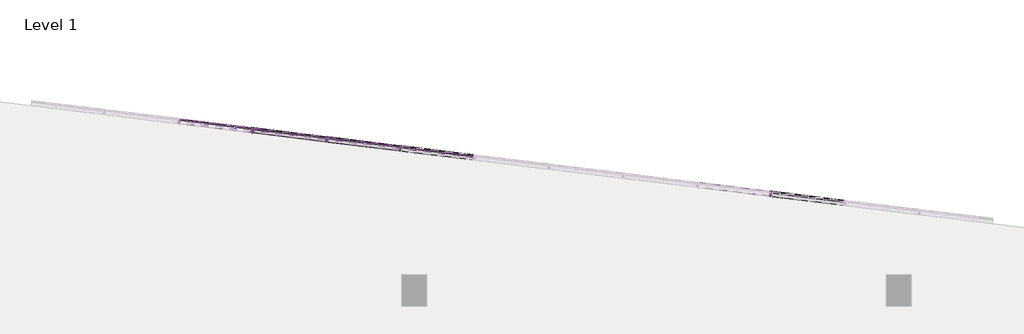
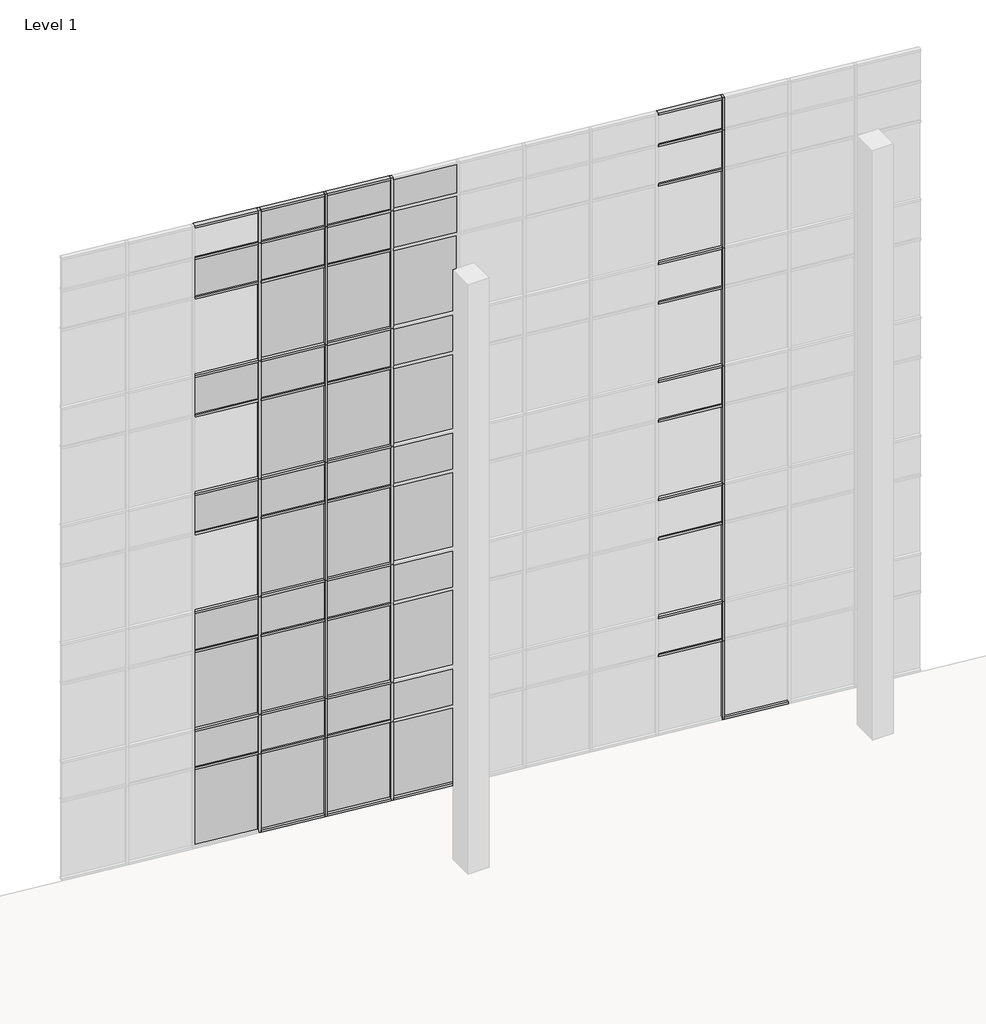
# One storey, part 18 of 23: 76 members, 40 plates.
"""IFC4 building model written with IfcOpenShell, lengths in millimetres."""

from ifc_helpers import new_model, si_unit, origin, place, context, project, spatial, transform, mapped, element, save
from components import member_2b49869a, member_f92b8aa2, member_810865a4, member_f0fea5a5, member_6d5c3e5e, member_9764dd38, system_panel_glazed_14c75400, system_panel_glazed_5b519c5a, system_panel_solid_5dfe6f83, system_panel_solid_e25e2004, system_panel_solid_b7551183

model = new_model("IFC4")

# Units and contexts
model_context = context("Model", 3, world=origin())
ifc_project = project(units=[si_unit("LENGTHUNIT", "METRE", prefix="MILLI")], contexts=[model_context])

# Site, building, storey
site = spatial("IfcSite", under=ifc_project)
building = spatial("IfcBuilding", under=site)
storey = spatial("IfcBuildingStorey", under=building, Name="Level 1", Elevation=0.0)

# Members
placement = place(None, origin())
member_shape = member_2b49869a(model_context)
element("IfcMember", 1, ObjectType="Rectangular Mullion : 2.5\" x 5\" rectangular", at=placement, inside=storey, context=model_context, shape_type="MappedRepresentation", body=[
    mapped(member_shape, transform((-12961.1731656, 13462.7931326, 2438.4), x_axis=(0.9925461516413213, -0.12186934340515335, 0.0), y_axis=(-0.12186934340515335, -0.9925461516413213, 0.0), z_axis=(0.0, 0.0, -1.0))),
])
element("IfcMember", 2, ObjectType="Rectangular Mullion : 2.5\" x 5\" rectangular", at=placement, inside=storey, context=model_context, shape_type="MappedRepresentation", body=[
    mapped(member_shape, transform((-11146.0047635, 13239.9184774, 2438.4), x_axis=(0.9925461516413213, -0.12186934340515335, 0.0), y_axis=(-0.12186934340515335, -0.9925461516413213, 0.0), z_axis=(0.0, 0.0, -1.0))),
])
element("IfcMember", 3, ObjectType="Rectangular Mullion : 2.5\" x 5\" rectangular", at=placement, inside=storey, context=model_context, shape_type="MappedRepresentation", body=[
    mapped(member_shape, transform((-254.9943507, 11902.6705461, 2438.4), x_axis=(0.9925461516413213, -0.12186934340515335, 0.0), y_axis=(-0.12186934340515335, -0.9925461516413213, 0.0), z_axis=(0.0, 0.0, -1.0))),
])
member_2_shape = member_f92b8aa2(model_context)
element("IfcMember", 4, ObjectType="Rectangular Mullion : 2.5\" x 5\" rectangular", at=placement, inside=storey, context=model_context, shape_type="MappedRepresentation", body=[
    mapped(member_2_shape, transform((-12961.1731656, 13462.7931326, 18288.0), x_axis=(0.9925461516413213, -0.12186934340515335, 0.0), y_axis=(-0.12186934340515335, -0.9925461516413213, 0.0), z_axis=(0.0, 0.0, -1.0))),
])
element("IfcMember", 5, ObjectType="Rectangular Mullion : 2.5\" x 5\" rectangular", at=placement, inside=storey, context=model_context, shape_type="MappedRepresentation", body=[
    mapped(member_2_shape, transform((-9330.8363614, 13017.0438222, 18288.0), x_axis=(0.9925461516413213, -0.12186934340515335, 0.0), y_axis=(-0.12186934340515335, -0.9925461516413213, 0.0), z_axis=(0.0, 0.0, -1.0))),
])
element("IfcMember", 6, ObjectType="Rectangular Mullion : 2.5\" x 5\" rectangular", at=placement, inside=storey, context=model_context, shape_type="MappedRepresentation", body=[
    mapped(member_2_shape, transform((-11146.0047635, 13239.9184774, 18288.0), x_axis=(0.9925461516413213, -0.12186934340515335, 0.0), y_axis=(-0.12186934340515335, -0.9925461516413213, 0.0), z_axis=(0.0, 0.0, -1.0))),
])
element("IfcMember", 7, ObjectType="Rectangular Mullion : 2.5\" x 5\" rectangular", at=placement, inside=storey, context=model_context, shape_type="MappedRepresentation", body=[
    mapped(member_2_shape, transform((-254.9943507, 11902.6705461, 18288.0), x_axis=(0.9925461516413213, -0.12186934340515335, 0.0), y_axis=(-0.12186934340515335, -0.9925461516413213, 0.0), z_axis=(0.0, 0.0, -1.0))),
])
member_3_shape = member_810865a4(model_context)
element("IfcMember", 8, ObjectType="Rectangular Mullion : 2.5\" x 5\" rectangular", at=placement, inside=storey, context=model_context, shape_type="MappedRepresentation", body=[
    mapped(member_3_shape, transform((-11146.0047635, 13239.9184774, 3657.6), x_axis=(0.9925461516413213, -0.12186934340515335, 0.0), y_axis=(-0.12186934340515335, -0.9925461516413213, 0.0), z_axis=(0.0, 0.0, -1.0))),
])
element("IfcMember", 9, ObjectType="Rectangular Mullion : 2.5\" x 5\" rectangular", at=placement, inside=storey, context=model_context, shape_type="MappedRepresentation", body=[
    mapped(member_3_shape, transform((-12961.1731656, 13462.7931326, 14630.4), x_axis=(0.9925461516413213, -0.12186934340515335, 0.0), y_axis=(-0.12186934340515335, -0.9925461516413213, 0.0), z_axis=(0.0, 0.0, -1.0))),
])
element("IfcMember", 10, ObjectType="Rectangular Mullion : 2.5\" x 5\" rectangular", at=placement, inside=storey, context=model_context, shape_type="MappedRepresentation", body=[
    mapped(member_3_shape, transform((-12961.1731656, 13462.7931326, 10972.8), x_axis=(0.9925461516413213, -0.12186934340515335, 0.0), y_axis=(-0.12186934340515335, -0.9925461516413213, 0.0), z_axis=(0.0, 0.0, -1.0))),
])
element("IfcMember", 11, ObjectType="Rectangular Mullion : 2.5\" x 5\" rectangular", at=placement, inside=storey, context=model_context, shape_type="MappedRepresentation", body=[
    mapped(member_3_shape, transform((-12961.1731656, 13462.7931326, 7315.2), x_axis=(0.9925461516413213, -0.12186934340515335, 0.0), y_axis=(-0.12186934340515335, -0.9925461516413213, 0.0), z_axis=(0.0, 0.0, -1.0))),
])
element("IfcMember", 12, ObjectType="Rectangular Mullion : 2.5\" x 5\" rectangular", at=placement, inside=storey, context=model_context, shape_type="MappedRepresentation", body=[
    mapped(member_3_shape, transform((-12961.1731656, 13462.7931326, 3657.6), x_axis=(0.9925461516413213, -0.12186934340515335, 0.0), y_axis=(-0.12186934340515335, -0.9925461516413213, 0.0), z_axis=(0.0, 0.0, -1.0))),
])
element("IfcMember", 13, ObjectType="Rectangular Mullion : 2.5\" x 5\" rectangular", at=placement, inside=storey, context=model_context, shape_type="MappedRepresentation", body=[
    mapped(member_3_shape, transform((-9330.8363614, 13017.0438222, 14630.4), x_axis=(0.9925461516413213, -0.12186934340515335, 0.0), y_axis=(-0.12186934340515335, -0.9925461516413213, 0.0), z_axis=(0.0, 0.0, -1.0))),
])
element("IfcMember", 14, ObjectType="Rectangular Mullion : 2.5\" x 5\" rectangular", at=placement, inside=storey, context=model_context, shape_type="MappedRepresentation", body=[
    mapped(member_3_shape, transform((-9330.8363614, 13017.0438222, 10972.8), x_axis=(0.9925461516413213, -0.12186934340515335, 0.0), y_axis=(-0.12186934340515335, -0.9925461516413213, 0.0), z_axis=(0.0, 0.0, -1.0))),
])
element("IfcMember", 15, ObjectType="Rectangular Mullion : 2.5\" x 5\" rectangular", at=placement, inside=storey, context=model_context, shape_type="MappedRepresentation", body=[
    mapped(member_3_shape, transform((-9330.8363614, 13017.0438222, 7315.2), x_axis=(0.9925461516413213, -0.12186934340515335, 0.0), y_axis=(-0.12186934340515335, -0.9925461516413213, 0.0), z_axis=(0.0, 0.0, -1.0))),
])
element("IfcMember", 16, ObjectType="Rectangular Mullion : 2.5\" x 5\" rectangular", at=placement, inside=storey, context=model_context, shape_type="MappedRepresentation", body=[
    mapped(member_3_shape, transform((-9330.8363614, 13017.0438222, 3657.6), x_axis=(0.9925461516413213, -0.12186934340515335, 0.0), y_axis=(-0.12186934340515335, -0.9925461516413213, 0.0), z_axis=(0.0, 0.0, -1.0))),
])
element("IfcMember", 17, ObjectType="Rectangular Mullion : 2.5\" x 5\" rectangular", at=placement, inside=storey, context=model_context, shape_type="MappedRepresentation", body=[
    mapped(member_3_shape, transform((-11146.0047635, 13239.9184774, 14630.4), x_axis=(0.9925461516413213, -0.12186934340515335, 0.0), y_axis=(-0.12186934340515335, -0.9925461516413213, 0.0), z_axis=(0.0, 0.0, -1.0))),
])
element("IfcMember", 18, ObjectType="Rectangular Mullion : 2.5\" x 5\" rectangular", at=placement, inside=storey, context=model_context, shape_type="MappedRepresentation", body=[
    mapped(member_3_shape, transform((-11146.0047635, 13239.9184774, 10972.8), x_axis=(0.9925461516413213, -0.12186934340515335, 0.0), y_axis=(-0.12186934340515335, -0.9925461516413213, 0.0), z_axis=(0.0, 0.0, -1.0))),
])
element("IfcMember", 19, ObjectType="Rectangular Mullion : 2.5\" x 5\" rectangular", at=placement, inside=storey, context=model_context, shape_type="MappedRepresentation", body=[
    mapped(member_3_shape, transform((-11146.0047635, 13239.9184774, 7315.2), x_axis=(0.9925461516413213, -0.12186934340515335, 0.0), y_axis=(-0.12186934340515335, -0.9925461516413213, 0.0), z_axis=(0.0, 0.0, -1.0))),
])
element("IfcMember", 20, ObjectType="Rectangular Mullion : 2.5\" x 5\" rectangular", at=placement, inside=storey, context=model_context, shape_type="MappedRepresentation", body=[
    mapped(member_3_shape, transform((-254.9943507, 11902.6705461, 14630.4), x_axis=(0.9925461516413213, -0.12186934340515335, 0.0), y_axis=(-0.12186934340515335, -0.9925461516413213, 0.0), z_axis=(0.0, 0.0, -1.0))),
])
element("IfcMember", 21, ObjectType="Rectangular Mullion : 2.5\" x 5\" rectangular", at=placement, inside=storey, context=model_context, shape_type="MappedRepresentation", body=[
    mapped(member_3_shape, transform((-254.9943507, 11902.6705461, 10972.8), x_axis=(0.9925461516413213, -0.12186934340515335, 0.0), y_axis=(-0.12186934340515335, -0.9925461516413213, 0.0), z_axis=(0.0, 0.0, -1.0))),
])
element("IfcMember", 22, ObjectType="Rectangular Mullion : 2.5\" x 5\" rectangular", at=placement, inside=storey, context=model_context, shape_type="MappedRepresentation", body=[
    mapped(member_3_shape, transform((-254.9943507, 11902.6705461, 7315.2), x_axis=(0.9925461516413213, -0.12186934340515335, 0.0), y_axis=(-0.12186934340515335, -0.9925461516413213, 0.0), z_axis=(0.0, 0.0, -1.0))),
])
element("IfcMember", 23, ObjectType="Rectangular Mullion : 2.5\" x 5\" rectangular", at=placement, inside=storey, context=model_context, shape_type="MappedRepresentation", body=[
    mapped(member_3_shape, transform((-254.9943507, 11902.6705461, 3657.6), x_axis=(0.9925461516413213, -0.12186934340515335, 0.0), y_axis=(-0.12186934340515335, -0.9925461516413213, 0.0), z_axis=(0.0, 0.0, -1.0))),
])
member_4_shape = member_f0fea5a5(model_context)
element("IfcMember", 24, ObjectType="Rectangular Mullion : 2.5\" x 5\" rectangular", at=placement, inside=storey, context=model_context, shape_type="MappedRepresentation", body=[
    mapped(member_4_shape, transform((-11146.0047635, 13239.9184774, 0.0), x_axis=(0.9925461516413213, -0.12186934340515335, 0.0), y_axis=(-0.12186934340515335, -0.9925461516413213, 0.0), z_axis=(0.0, 0.0, -1.0))),
])
element("IfcMember", 25, ObjectType="Rectangular Mullion : 2.5\" x 5\" rectangular", at=placement, inside=storey, context=model_context, shape_type="MappedRepresentation", body=[
    mapped(member_4_shape, transform((-12961.1731656, 13462.7931326, 0.0), x_axis=(0.9925461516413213, -0.12186934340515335, 0.0), y_axis=(-0.12186934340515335, -0.9925461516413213, 0.0), z_axis=(0.0, 0.0, -1.0))),
])
element("IfcMember", 26, ObjectType="Rectangular Mullion : 2.5\" x 5\" rectangular", at=placement, inside=storey, context=model_context, shape_type="MappedRepresentation", body=[
    mapped(member_4_shape, transform((-254.9943507, 11902.6705461, 0.0), x_axis=(0.9925461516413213, -0.12186934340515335, 0.0), y_axis=(-0.12186934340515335, -0.9925461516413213, 0.0), z_axis=(0.0, 0.0, -1.0))),
])
element("IfcMember", 27, ObjectType="Rectangular Mullion : 2.5\" x 5\" rectangular", at=placement, inside=storey, context=model_context, shape_type="MappedRepresentation", body=[
    mapped(member_4_shape, transform((-9330.8363614, 13017.0438222, 0.0), x_axis=(0.9925461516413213, -0.12186934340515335, 0.0), y_axis=(-0.12186934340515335, -0.9925461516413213, 0.0), z_axis=(0.0, 0.0, -1.0))),
])
element("IfcMember", 28, ObjectType="Rectangular Mullion : 2.5\" x 5\" rectangular", at=placement, inside=storey, context=model_context, shape_type="MappedRepresentation", body=[
    mapped(member_shape, transform((-9330.8363614, 13017.0438222, 2438.4), x_axis=(0.9925461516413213, -0.12186934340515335, 0.0), y_axis=(-0.12186934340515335, -0.9925461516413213, 0.0), z_axis=(0.0, 0.0, -1.0))),
])
member_5_shape = member_6d5c3e5e(model_context)
element("IfcMember", 29, ObjectType="Rectangular Mullion : 2.5\" x 5\" rectangular", at=placement, inside=storey, context=model_context, shape_type="MappedRepresentation", body=[
    mapped(member_5_shape, transform((-9362.3497017, 13020.9131738, 19304.0), x_axis=(0.0, 0.0, 1.0), y_axis=(-0.12186934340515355, -0.9925461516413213, 0.0), z_axis=(0.9925461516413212, -0.12186934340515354, 0.0))),
])
element("IfcMember", 30, ObjectType="Rectangular Mullion : 2.5\" x 5\" rectangular", at=placement, inside=storey, context=model_context, shape_type="MappedRepresentation", body=[
    mapped(member_5_shape, transform((-11177.5181038, 13243.7878291, 19304.0), x_axis=(0.0, 0.0, 1.0), y_axis=(-0.12186934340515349, -0.9925461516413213, 0.0), z_axis=(0.9925461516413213, -0.12186934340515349, 0.0))),
])
element("IfcMember", 31, ObjectType="Rectangular Mullion : 2.5\" x 5\" rectangular", at=placement, inside=storey, context=model_context, shape_type="MappedRepresentation", body=[
    mapped(member_5_shape, transform((-12992.6865059, 13466.6624843, 19304.0), x_axis=(0.0, 0.0, 1.0), y_axis=(-0.12186934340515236, -0.9925461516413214, 0.0), z_axis=(0.9925461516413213, -0.12186934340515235, 0.0))),
])
element("IfcMember", 32, ObjectType="Rectangular Mullion : 2.5\" x 5\" rectangular", at=placement, inside=storey, context=model_context, shape_type="MappedRepresentation", body=[
    mapped(member_5_shape, transform((-286.5076911, 11906.5398977, 19304.0), x_axis=(0.0, 0.0, 1.0), y_axis=(-0.12186934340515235, -0.9925461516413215, 0.0), z_axis=(0.9925461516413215, -0.12186934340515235, 0.0))),
])
member_6_shape = member_9764dd38(model_context)
element("IfcMember", 33, ObjectType="Rectangular Mullion : 2.5\" x 5\" rectangular", at=placement, inside=storey, context=model_context, shape_type="MappedRepresentation", body=[
    mapped(member_6_shape, transform((-286.5076911, 11906.5398977, 17068.8), x_axis=(0.0, 0.0, 1.0), y_axis=(-0.12186934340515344, -0.9925461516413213, 0.0), z_axis=(0.9925461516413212, -0.12186934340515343, 0.0))),
])
element("IfcMember", 34, ObjectType="Rectangular Mullion : 2.5\" x 5\" rectangular", at=placement, inside=storey, context=model_context, shape_type="MappedRepresentation", body=[
    mapped(member_6_shape, transform((-9362.3497017, 13020.9131738, 17068.8), x_axis=(0.0, 0.0, 1.0), y_axis=(-0.12186934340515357, -0.9925461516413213, 0.0), z_axis=(0.9925461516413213, -0.12186934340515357, 0.0))),
])
element("IfcMember", 35, ObjectType="Rectangular Mullion : 2.5\" x 5\" rectangular", at=placement, inside=storey, context=model_context, shape_type="MappedRepresentation", body=[
    mapped(member_6_shape, transform((-11177.5181038, 13243.7878291, 17068.8), x_axis=(0.0, 0.0, 1.0), y_axis=(-0.12186934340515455, -0.9925461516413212, 0.0), z_axis=(0.9925461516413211, -0.12186934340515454, 0.0))),
])
element("IfcMember", 36, ObjectType="Rectangular Mullion : 2.5\" x 5\" rectangular", at=placement, inside=storey, context=model_context, shape_type="MappedRepresentation", body=[
    mapped(member_6_shape, transform((-12992.6865059, 13466.6624843, 17068.8), x_axis=(0.0, 0.0, 1.0), y_axis=(-0.12186934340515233, -0.9925461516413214, 0.0), z_axis=(0.9925461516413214, -0.12186934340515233, 0.0))),
])
element("IfcMember", 37, ObjectType="Rectangular Mullion : 2.5\" x 5\" rectangular", at=placement, inside=storey, context=model_context, shape_type="MappedRepresentation", body=[
    mapped(member_6_shape, transform((-286.5076911, 11906.5398977, 13411.2), x_axis=(0.0, 0.0, 1.0), y_axis=(-0.12186934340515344, -0.9925461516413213, 0.0), z_axis=(0.9925461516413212, -0.12186934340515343, 0.0))),
])
element("IfcMember", 38, ObjectType="Rectangular Mullion : 2.5\" x 5\" rectangular", at=placement, inside=storey, context=model_context, shape_type="MappedRepresentation", body=[
    mapped(member_6_shape, transform((-9362.3497017, 13020.9131738, 13411.2), x_axis=(0.0, 0.0, 1.0), y_axis=(-0.12186934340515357, -0.9925461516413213, 0.0), z_axis=(0.9925461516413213, -0.12186934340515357, 0.0))),
])
element("IfcMember", 39, ObjectType="Rectangular Mullion : 2.5\" x 5\" rectangular", at=placement, inside=storey, context=model_context, shape_type="MappedRepresentation", body=[
    mapped(member_6_shape, transform((-11177.5181038, 13243.7878291, 13411.2), x_axis=(0.0, 0.0, 1.0), y_axis=(-0.12186934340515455, -0.9925461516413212, 0.0), z_axis=(0.9925461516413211, -0.12186934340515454, 0.0))),
])
element("IfcMember", 40, ObjectType="Rectangular Mullion : 2.5\" x 5\" rectangular", at=placement, inside=storey, context=model_context, shape_type="MappedRepresentation", body=[
    mapped(member_6_shape, transform((-12992.6865059, 13466.6624843, 13411.2), x_axis=(0.0, 0.0, 1.0), y_axis=(-0.12186934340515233, -0.9925461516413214, 0.0), z_axis=(0.9925461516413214, -0.12186934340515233, 0.0))),
])
element("IfcMember", 41, ObjectType="Rectangular Mullion : 2.5\" x 5\" rectangular", at=placement, inside=storey, context=model_context, shape_type="MappedRepresentation", body=[
    mapped(member_6_shape, transform((-286.5076911, 11906.5398977, 9753.6), x_axis=(0.0, 0.0, 1.0), y_axis=(-0.12186934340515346, -0.9925461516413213, 0.0), z_axis=(0.9925461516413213, -0.12186934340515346, 0.0))),
])
element("IfcMember", 42, ObjectType="Rectangular Mullion : 2.5\" x 5\" rectangular", at=placement, inside=storey, context=model_context, shape_type="MappedRepresentation", body=[
    mapped(member_6_shape, transform((-9362.3497017, 13020.9131738, 9753.6), x_axis=(0.0, 0.0, 1.0), y_axis=(-0.12186934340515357, -0.9925461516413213, 0.0), z_axis=(0.9925461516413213, -0.12186934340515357, 0.0))),
])
element("IfcMember", 43, ObjectType="Rectangular Mullion : 2.5\" x 5\" rectangular", at=placement, inside=storey, context=model_context, shape_type="MappedRepresentation", body=[
    mapped(member_6_shape, transform((-11177.5181038, 13243.7878291, 9753.6), x_axis=(0.0, 0.0, 1.0), y_axis=(-0.12186934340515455, -0.9925461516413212, 0.0), z_axis=(0.9925461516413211, -0.12186934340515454, 0.0))),
])
element("IfcMember", 44, ObjectType="Rectangular Mullion : 2.5\" x 5\" rectangular", at=placement, inside=storey, context=model_context, shape_type="MappedRepresentation", body=[
    mapped(member_6_shape, transform((-12992.6865059, 13466.6624843, 9753.6), x_axis=(0.0, 0.0, 1.0), y_axis=(-0.12186934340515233, -0.9925461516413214, 0.0), z_axis=(0.9925461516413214, -0.12186934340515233, 0.0))),
])
element("IfcMember", 45, ObjectType="Rectangular Mullion : 2.5\" x 5\" rectangular", at=placement, inside=storey, context=model_context, shape_type="MappedRepresentation", body=[
    mapped(member_6_shape, transform((-286.5076911, 11906.5398977, 6096.0), x_axis=(0.0, 0.0, 1.0), y_axis=(-0.12186934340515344, -0.9925461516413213, 0.0), z_axis=(0.9925461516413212, -0.12186934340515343, 0.0))),
])
element("IfcMember", 46, ObjectType="Rectangular Mullion : 2.5\" x 5\" rectangular", at=placement, inside=storey, context=model_context, shape_type="MappedRepresentation", body=[
    mapped(member_6_shape, transform((-9362.3497017, 13020.9131738, 6096.0), x_axis=(0.0, 0.0, 1.0), y_axis=(-0.12186934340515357, -0.9925461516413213, 0.0), z_axis=(0.9925461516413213, -0.12186934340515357, 0.0))),
])
element("IfcMember", 47, ObjectType="Rectangular Mullion : 2.5\" x 5\" rectangular", at=placement, inside=storey, context=model_context, shape_type="MappedRepresentation", body=[
    mapped(member_6_shape, transform((-11177.5181038, 13243.7878291, 6096.0), x_axis=(0.0, 0.0, 1.0), y_axis=(-0.12186934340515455, -0.9925461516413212, 0.0), z_axis=(0.9925461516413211, -0.12186934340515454, 0.0))),
])
element("IfcMember", 48, ObjectType="Rectangular Mullion : 2.5\" x 5\" rectangular", at=placement, inside=storey, context=model_context, shape_type="MappedRepresentation", body=[
    mapped(member_6_shape, transform((-12992.6865059, 13466.6624843, 6096.0), x_axis=(0.0, 0.0, 1.0), y_axis=(-0.12186934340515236, -0.9925461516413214, 0.0), z_axis=(0.9925461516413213, -0.12186934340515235, 0.0))),
])
element("IfcMember", 49, ObjectType="Rectangular Mullion : 2.5\" x 5\" rectangular", at=placement, inside=storey, context=model_context, shape_type="MappedRepresentation", body=[
    mapped(member_6_shape, transform((-286.5076911, 11906.5398977, 2470.15), x_axis=(0.0, 0.0, 1.0), y_axis=(-0.12186934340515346, -0.9925461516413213, 0.0), z_axis=(0.9925461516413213, -0.12186934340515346, 0.0))),
])
element("IfcMember", 50, ObjectType="Rectangular Mullion : 2.5\" x 5\" rectangular", at=placement, inside=storey, context=model_context, shape_type="MappedRepresentation", body=[
    mapped(member_6_shape, transform((-9362.3497017, 13020.9131738, 2470.15), x_axis=(0.0, 0.0, 1.0), y_axis=(-0.12186934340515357, -0.9925461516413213, 0.0), z_axis=(0.9925461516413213, -0.12186934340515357, 0.0))),
])
element("IfcMember", 51, ObjectType="Rectangular Mullion : 2.5\" x 5\" rectangular", at=placement, inside=storey, context=model_context, shape_type="MappedRepresentation", body=[
    mapped(member_6_shape, transform((-11177.5181038, 13243.7878291, 2470.15), x_axis=(0.0, 0.0, 1.0), y_axis=(-0.12186934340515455, -0.9925461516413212, 0.0), z_axis=(0.9925461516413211, -0.12186934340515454, 0.0))),
])
element("IfcMember", 52, ObjectType="Rectangular Mullion : 2.5\" x 5\" rectangular", at=placement, inside=storey, context=model_context, shape_type="MappedRepresentation", body=[
    mapped(member_6_shape, transform((-12992.6865059, 13466.6624843, 2470.15), x_axis=(0.0, 0.0, 1.0), y_axis=(-0.12186934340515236, -0.9925461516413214, 0.0), z_axis=(0.9925461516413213, -0.12186934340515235, 0.0))),
])
element("IfcMember", 53, ObjectType="Rectangular Mullion : 2.5\" x 5\" rectangular", at=placement, inside=storey, context=model_context, shape_type="MappedRepresentation", body=[
    mapped(member_5_shape, transform((-223.4810104, 11898.8011944, 0.0), x_axis=(0.0, 0.0, -1.0), y_axis=(-0.12186934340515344, -0.9925461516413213, 0.0), z_axis=(-0.9925461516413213, 0.12186934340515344, 0.0))),
])
element("IfcMember", 54, ObjectType="Rectangular Mullion : 2.5\" x 5\" rectangular", at=placement, inside=storey, context=model_context, shape_type="MappedRepresentation", body=[
    mapped(member_5_shape, transform((-11114.4914232, 13236.0491257, 0.0), x_axis=(0.0, 0.0, -1.0), y_axis=(-0.12186934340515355, -0.9925461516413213, 0.0), z_axis=(-0.9925461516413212, 0.12186934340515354, 0.0))),
])
element("IfcMember", 55, ObjectType="Rectangular Mullion : 2.5\" x 5\" rectangular", at=placement, inside=storey, context=model_context, shape_type="MappedRepresentation", body=[
    mapped(member_5_shape, transform((-12929.6598253, 13458.923781, 0.0), x_axis=(0.0, 0.0, -1.0), y_axis=(-0.12186934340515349, -0.9925461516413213, 0.0), z_axis=(-0.9925461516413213, 0.12186934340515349, 0.0))),
])
element("IfcMember", 56, ObjectType="Rectangular Mullion : 2.5\" x 5\" rectangular", at=placement, inside=storey, context=model_context, shape_type="MappedRepresentation", body=[
    mapped(member_5_shape, transform((-9299.323021, 13013.1744705, 0.0), x_axis=(0.0, 0.0, -1.0), y_axis=(-0.12186934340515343, -0.9925461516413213, 0.0), z_axis=(-0.9925461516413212, 0.12186934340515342, 0.0))),
])
element("IfcMember", 57, ObjectType="Rectangular Mullion : 2.5\" x 5\" rectangular", at=placement, inside=storey, context=model_context, shape_type="MappedRepresentation", body=[
    mapped(member_6_shape, transform((-286.5076911, 11906.5398977, 3657.6), x_axis=(0.0, 0.0, 1.0), y_axis=(-0.12186934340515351, -0.9925461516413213, 0.0), z_axis=(0.9925461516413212, -0.1218693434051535, 0.0))),
])
element("IfcMember", 58, ObjectType="Rectangular Mullion : 2.5\" x 5\" rectangular", at=placement, inside=storey, context=model_context, shape_type="MappedRepresentation", body=[
    mapped(member_6_shape, transform((-9362.3497017, 13020.9131738, 3657.6), x_axis=(0.0, 0.0, 1.0), y_axis=(-0.12186934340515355, -0.9925461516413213, 0.0), z_axis=(0.9925461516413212, -0.12186934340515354, 0.0))),
])
element("IfcMember", 59, ObjectType="Rectangular Mullion : 2.5\" x 5\" rectangular", at=placement, inside=storey, context=model_context, shape_type="MappedRepresentation", body=[
    mapped(member_6_shape, transform((-11177.5181038, 13243.7878291, 3657.6), x_axis=(0.0, 0.0, 1.0), y_axis=(-0.12186934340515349, -0.9925461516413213, 0.0), z_axis=(0.9925461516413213, -0.12186934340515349, 0.0))),
])
element("IfcMember", 60, ObjectType="Rectangular Mullion : 2.5\" x 5\" rectangular", at=placement, inside=storey, context=model_context, shape_type="MappedRepresentation", body=[
    mapped(member_6_shape, transform((-12992.6865059, 13466.6624843, 3657.6), x_axis=(0.0, 0.0, 1.0), y_axis=(-0.12186934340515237, -0.9925461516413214, 0.0), z_axis=(0.9925461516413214, -0.12186934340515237, 0.0))),
])
element("IfcMember", 61, ObjectType="Rectangular Mullion : 2.5\" x 5\" rectangular", at=placement, inside=storey, context=model_context, shape_type="MappedRepresentation", body=[
    mapped(member_6_shape, transform((-286.5076911, 11906.5398977, 10972.8), x_axis=(0.0, 0.0, 1.0), y_axis=(-0.12186934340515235, -0.9925461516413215, 0.0), z_axis=(0.9925461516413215, -0.12186934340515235, 0.0))),
])
element("IfcMember", 62, ObjectType="Rectangular Mullion : 2.5\" x 5\" rectangular", at=placement, inside=storey, context=model_context, shape_type="MappedRepresentation", body=[
    mapped(member_6_shape, transform((-9362.3497017, 13020.9131738, 10972.8), x_axis=(0.0, 0.0, 1.0), y_axis=(-0.12186934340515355, -0.9925461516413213, 0.0), z_axis=(0.9925461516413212, -0.12186934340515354, 0.0))),
])
element("IfcMember", 63, ObjectType="Rectangular Mullion : 2.5\" x 5\" rectangular", at=placement, inside=storey, context=model_context, shape_type="MappedRepresentation", body=[
    mapped(member_6_shape, transform((-11177.5181038, 13243.7878291, 10972.8), x_axis=(0.0, 0.0, 1.0), y_axis=(-0.12186934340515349, -0.9925461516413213, 0.0), z_axis=(0.9925461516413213, -0.12186934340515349, 0.0))),
])
element("IfcMember", 64, ObjectType="Rectangular Mullion : 2.5\" x 5\" rectangular", at=placement, inside=storey, context=model_context, shape_type="MappedRepresentation", body=[
    mapped(member_6_shape, transform((-12992.6865059, 13466.6624843, 10972.8), x_axis=(0.0, 0.0, 1.0), y_axis=(-0.12186934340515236, -0.9925461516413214, 0.0), z_axis=(0.9925461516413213, -0.12186934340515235, 0.0))),
])
element("IfcMember", 65, ObjectType="Rectangular Mullion : 2.5\" x 5\" rectangular", at=placement, inside=storey, context=model_context, shape_type="MappedRepresentation", body=[
    mapped(member_6_shape, transform((-286.5076911, 11906.5398977, 14630.4), x_axis=(0.0, 0.0, 1.0), y_axis=(-0.12186934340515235, -0.9925461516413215, 0.0), z_axis=(0.9925461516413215, -0.12186934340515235, 0.0))),
])
element("IfcMember", 66, ObjectType="Rectangular Mullion : 2.5\" x 5\" rectangular", at=placement, inside=storey, context=model_context, shape_type="MappedRepresentation", body=[
    mapped(member_6_shape, transform((-9362.3497017, 13020.9131738, 14630.4), x_axis=(0.0, 0.0, 1.0), y_axis=(-0.12186934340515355, -0.9925461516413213, 0.0), z_axis=(0.9925461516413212, -0.12186934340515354, 0.0))),
])
element("IfcMember", 67, ObjectType="Rectangular Mullion : 2.5\" x 5\" rectangular", at=placement, inside=storey, context=model_context, shape_type="MappedRepresentation", body=[
    mapped(member_6_shape, transform((-11177.5181038, 13243.7878291, 14630.4), x_axis=(0.0, 0.0, 1.0), y_axis=(-0.12186934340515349, -0.9925461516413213, 0.0), z_axis=(0.9925461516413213, -0.12186934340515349, 0.0))),
])
element("IfcMember", 68, ObjectType="Rectangular Mullion : 2.5\" x 5\" rectangular", at=placement, inside=storey, context=model_context, shape_type="MappedRepresentation", body=[
    mapped(member_6_shape, transform((-12992.6865059, 13466.6624843, 14630.4), x_axis=(0.0, 0.0, 1.0), y_axis=(-0.12186934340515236, -0.9925461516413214, 0.0), z_axis=(0.9925461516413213, -0.12186934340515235, 0.0))),
])
element("IfcMember", 69, ObjectType="Rectangular Mullion : 2.5\" x 5\" rectangular", at=placement, inside=storey, context=model_context, shape_type="MappedRepresentation", body=[
    mapped(member_6_shape, transform((-286.5076911, 11906.5398977, 7315.2), x_axis=(0.0, 0.0, 1.0), y_axis=(-0.12186934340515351, -0.9925461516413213, 0.0), z_axis=(0.9925461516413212, -0.1218693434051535, 0.0))),
])
element("IfcMember", 70, ObjectType="Rectangular Mullion : 2.5\" x 5\" rectangular", at=placement, inside=storey, context=model_context, shape_type="MappedRepresentation", body=[
    mapped(member_6_shape, transform((-9362.3497017, 13020.9131738, 7315.2), x_axis=(0.0, 0.0, 1.0), y_axis=(-0.12186934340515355, -0.9925461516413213, 0.0), z_axis=(0.9925461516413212, -0.12186934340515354, 0.0))),
])
element("IfcMember", 71, ObjectType="Rectangular Mullion : 2.5\" x 5\" rectangular", at=placement, inside=storey, context=model_context, shape_type="MappedRepresentation", body=[
    mapped(member_6_shape, transform((-11177.5181038, 13243.7878291, 7315.2), x_axis=(0.0, 0.0, 1.0), y_axis=(-0.12186934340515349, -0.9925461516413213, 0.0), z_axis=(0.9925461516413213, -0.12186934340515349, 0.0))),
])
element("IfcMember", 72, ObjectType="Rectangular Mullion : 2.5\" x 5\" rectangular", at=placement, inside=storey, context=model_context, shape_type="MappedRepresentation", body=[
    mapped(member_6_shape, transform((-12992.6865059, 13466.6624843, 7315.2), x_axis=(0.0, 0.0, 1.0), y_axis=(-0.12186934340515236, -0.9925461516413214, 0.0), z_axis=(0.9925461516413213, -0.12186934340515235, 0.0))),
])
element("IfcMember", 73, ObjectType="Rectangular Mullion : 2.5\" x 5\" rectangular", at=placement, inside=storey, context=model_context, shape_type="MappedRepresentation", body=[
    mapped(member_6_shape, transform((-12992.6865059, 13466.6624843, 18288.0), x_axis=(0.0, 0.0, 1.0), y_axis=(-0.12186934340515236, -0.9925461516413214, 0.0), z_axis=(0.9925461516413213, -0.12186934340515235, 0.0))),
])
element("IfcMember", 74, ObjectType="Rectangular Mullion : 2.5\" x 5\" rectangular", at=placement, inside=storey, context=model_context, shape_type="MappedRepresentation", body=[
    mapped(member_6_shape, transform((-286.5076911, 11906.5398977, 18288.0), x_axis=(0.0, 0.0, 1.0), y_axis=(-0.12186934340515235, -0.9925461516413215, 0.0), z_axis=(0.9925461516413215, -0.12186934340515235, 0.0))),
])
element("IfcMember", 75, ObjectType="Rectangular Mullion : 2.5\" x 5\" rectangular", at=placement, inside=storey, context=model_context, shape_type="MappedRepresentation", body=[
    mapped(member_6_shape, transform((-9362.3497017, 13020.9131738, 18288.0), x_axis=(0.0, 0.0, 1.0), y_axis=(-0.12186934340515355, -0.9925461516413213, 0.0), z_axis=(0.9925461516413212, -0.12186934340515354, 0.0))),
])
element("IfcMember", 76, ObjectType="Rectangular Mullion : 2.5\" x 5\" rectangular", at=placement, inside=storey, context=model_context, shape_type="MappedRepresentation", body=[
    mapped(member_6_shape, transform((-11177.5181038, 13243.7878291, 18288.0), x_axis=(0.0, 0.0, 1.0), y_axis=(-0.12186934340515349, -0.9925461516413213, 0.0), z_axis=(0.9925461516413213, -0.12186934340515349, 0.0))),
])

# Plates
system_panel_glazed_shape = system_panel_glazed_14c75400(model_context)
element("IfcPlate", 77, ObjectType="System Panel : Glazed", at=placement, inside=storey, context=model_context, shape_type="MappedRepresentation", body=[
    mapped(system_panel_glazed_shape, transform((-8423.2521603, 12905.6064946, 14662.15), x_axis=(0.9925461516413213, -0.12186934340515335, 0.0), y_axis=(0.12186934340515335, 0.9925461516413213, 0.0), z_axis=(0.0, 0.0, 1.0))),
])
element("IfcPlate", 78, ObjectType="System Panel : Glazed", at=placement, inside=storey, context=model_context, shape_type="MappedRepresentation", body=[
    mapped(system_panel_glazed_shape, transform((-10238.4205624, 13128.4811498, 14662.15), x_axis=(0.9925461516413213, -0.12186934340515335, 0.0), y_axis=(0.12186934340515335, 0.9925461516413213, 0.0), z_axis=(0.0, 0.0, 1.0))),
])
element("IfcPlate", 79, ObjectType="System Panel : Glazed", at=placement, inside=storey, context=model_context, shape_type="MappedRepresentation", body=[
    mapped(system_panel_glazed_shape, transform((-12053.5889645, 13351.355805, 14662.15), x_axis=(0.9925461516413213, -0.12186934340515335, 0.0), y_axis=(0.12186934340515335, 0.9925461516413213, 0.0), z_axis=(0.0, 0.0, 1.0))),
])
element("IfcPlate", 80, ObjectType="System Panel : Glazed", at=placement, inside=storey, context=model_context, shape_type="MappedRepresentation", body=[
    mapped(system_panel_glazed_shape, transform((-8423.2521603, 12905.6064946, 11004.55), x_axis=(0.9925461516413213, -0.12186934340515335, 0.0), y_axis=(0.12186934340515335, 0.9925461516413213, 0.0), z_axis=(0.0, 0.0, 1.0))),
])
element("IfcPlate", 81, ObjectType="System Panel : Glazed", at=placement, inside=storey, context=model_context, shape_type="MappedRepresentation", body=[
    mapped(system_panel_glazed_shape, transform((-10238.4205624, 13128.4811498, 11004.55), x_axis=(0.9925461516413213, -0.12186934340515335, 0.0), y_axis=(0.12186934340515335, 0.9925461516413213, 0.0), z_axis=(0.0, 0.0, 1.0))),
])
element("IfcPlate", 82, ObjectType="System Panel : Glazed", at=placement, inside=storey, context=model_context, shape_type="MappedRepresentation", body=[
    mapped(system_panel_glazed_shape, transform((-12053.5889645, 13351.355805, 11004.55), x_axis=(0.9925461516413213, -0.12186934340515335, 0.0), y_axis=(0.12186934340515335, 0.9925461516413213, 0.0), z_axis=(0.0, 0.0, 1.0))),
])
element("IfcPlate", 83, ObjectType="System Panel : Glazed", at=placement, inside=storey, context=model_context, shape_type="MappedRepresentation", body=[
    mapped(system_panel_glazed_shape, transform((-8423.2521603, 12905.6064946, 7346.95), x_axis=(0.9925461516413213, -0.12186934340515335, 0.0), y_axis=(0.12186934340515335, 0.9925461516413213, 0.0), z_axis=(0.0, 0.0, 1.0))),
])
element("IfcPlate", 84, ObjectType="System Panel : Glazed", at=placement, inside=storey, context=model_context, shape_type="MappedRepresentation", body=[
    mapped(system_panel_glazed_shape, transform((-10238.4205624, 13128.4811498, 7346.95), x_axis=(0.9925461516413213, -0.12186934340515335, 0.0), y_axis=(0.12186934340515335, 0.9925461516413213, 0.0), z_axis=(0.0, 0.0, 1.0))),
])
element("IfcPlate", 85, ObjectType="System Panel : Glazed", at=placement, inside=storey, context=model_context, shape_type="MappedRepresentation", body=[
    mapped(system_panel_glazed_shape, transform((-12053.5889645, 13351.355805, 7346.95), x_axis=(0.9925461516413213, -0.12186934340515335, 0.0), y_axis=(0.12186934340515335, 0.9925461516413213, 0.0), z_axis=(0.0, 0.0, 1.0))),
])
element("IfcPlate", 86, ObjectType="System Panel : Glazed", at=placement, inside=storey, context=model_context, shape_type="MappedRepresentation", body=[
    mapped(system_panel_glazed_shape, transform((-8423.2521603, 12905.6064946, 3689.35), x_axis=(0.9925461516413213, -0.12186934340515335, 0.0), y_axis=(0.12186934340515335, 0.9925461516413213, 0.0), z_axis=(0.0, 0.0, 1.0))),
])
element("IfcPlate", 87, ObjectType="System Panel : Glazed", at=placement, inside=storey, context=model_context, shape_type="MappedRepresentation", body=[
    mapped(system_panel_glazed_shape, transform((-10238.4205624, 13128.4811498, 3689.35), x_axis=(0.9925461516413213, -0.12186934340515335, 0.0), y_axis=(0.12186934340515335, 0.9925461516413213, 0.0), z_axis=(0.0, 0.0, 1.0))),
])
element("IfcPlate", 88, ObjectType="System Panel : Glazed", at=placement, inside=storey, context=model_context, shape_type="MappedRepresentation", body=[
    mapped(system_panel_glazed_shape, transform((-12053.5889645, 13351.355805, 3689.35), x_axis=(0.9925461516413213, -0.12186934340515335, 0.0), y_axis=(0.12186934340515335, 0.9925461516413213, 0.0), z_axis=(0.0, 0.0, 1.0))),
])
element("IfcPlate", 89, ObjectType="System Panel : Glazed", at=placement, inside=storey, context=model_context, shape_type="MappedRepresentation", body=[
    mapped(system_panel_glazed_shape, transform((-13868.7573667, 13574.2304602, 3689.35), x_axis=(0.9925461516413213, -0.12186934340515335, 0.0), y_axis=(0.12186934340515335, 0.9925461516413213, 0.0), z_axis=(0.0, 0.0, 1.0))),
])
element("IfcPlate", 90, ObjectType="System Panel : Glazed", at=placement, inside=storey, context=model_context, shape_type="MappedRepresentation", body=[
    mapped(system_panel_glazed_shape, transform((-10238.4205624, 13128.4811498, 63.5), x_axis=(0.9925461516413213, -0.12186934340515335, 0.0), y_axis=(0.12186934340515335, 0.9925461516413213, 0.0), z_axis=(0.0, 0.0, 1.0))),
])
element("IfcPlate", 91, ObjectType="System Panel : Glazed", at=placement, inside=storey, context=model_context, shape_type="MappedRepresentation", body=[
    mapped(system_panel_glazed_shape, transform((-12053.5889645, 13351.355805, 63.5), x_axis=(0.9925461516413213, -0.12186934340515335, 0.0), y_axis=(0.12186934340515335, 0.9925461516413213, 0.0), z_axis=(0.0, 0.0, 1.0))),
])
element("IfcPlate", 92, ObjectType="System Panel : Glazed", at=placement, inside=storey, context=model_context, shape_type="MappedRepresentation", body=[
    mapped(system_panel_glazed_shape, transform((-13868.7573667, 13574.2304602, 63.5), x_axis=(0.9925461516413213, -0.12186934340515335, 0.0), y_axis=(0.12186934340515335, 0.9925461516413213, 0.0), z_axis=(0.0, 0.0, 1.0))),
])
system_panel_glazed_2_shape = system_panel_glazed_5b519c5a(model_context)
element("IfcPlate", 93, ObjectType="System Panel : Glazed", at=placement, inside=storey, context=model_context, shape_type="MappedRepresentation", body=[
    mapped(system_panel_glazed_2_shape, transform((-8423.2521603, 12905.6064946, 63.5), x_axis=(0.9925461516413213, -0.12186934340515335, 0.0), y_axis=(0.12186934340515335, 0.9925461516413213, 0.0), z_axis=(0.0, 0.0, 1.0))),
])
system_panel_solid_shape = system_panel_solid_5dfe6f83(model_context)
element("IfcPlate", 94, ObjectType="System Panel : Solid", at=placement, inside=storey, context=model_context, shape_type="MappedRepresentation", body=[
    mapped(system_panel_solid_shape, transform((-12053.5889645, 13351.355805, 18319.75), x_axis=(0.9925461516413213, -0.12186934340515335, 0.0), y_axis=(0.12186934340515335, 0.9925461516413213, 0.0), z_axis=(0.0, 0.0, 1.0))),
])
element("IfcPlate", 95, ObjectType="System Panel : Solid", at=placement, inside=storey, context=model_context, shape_type="MappedRepresentation", body=[
    mapped(system_panel_solid_shape, transform((-10238.4205624, 13128.4811498, 18319.75), x_axis=(0.9925461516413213, -0.12186934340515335, 0.0), y_axis=(0.12186934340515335, 0.9925461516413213, 0.0), z_axis=(0.0, 0.0, 1.0))),
])
element("IfcPlate", 96, ObjectType="System Panel : Solid", at=placement, inside=storey, context=model_context, shape_type="MappedRepresentation", body=[
    mapped(system_panel_solid_shape, transform((-8423.2521603, 12905.6064946, 18319.75), x_axis=(0.9925461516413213, -0.12186934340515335, 0.0), y_axis=(0.12186934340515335, 0.9925461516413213, 0.0), z_axis=(0.0, 0.0, 1.0))),
])
system_panel_solid_2_shape = system_panel_solid_e25e2004(model_context)
element("IfcPlate", 97, ObjectType="System Panel : Solid", at=placement, inside=storey, context=model_context, shape_type="MappedRepresentation", body=[
    mapped(system_panel_solid_2_shape, transform((-8423.2521603, 12905.6064946, 2470.15), x_axis=(0.9925461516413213, -0.12186934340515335, 0.0), y_axis=(0.12186934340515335, 0.9925461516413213, 0.0), z_axis=(0.0, 0.0, 1.0))),
])
element("IfcPlate", 98, ObjectType="System Panel : Solid", at=placement, inside=storey, context=model_context, shape_type="MappedRepresentation", body=[
    mapped(system_panel_solid_2_shape, transform((-8423.2521603, 12905.6064946, 17100.55), x_axis=(0.9925461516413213, -0.12186934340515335, 0.0), y_axis=(0.12186934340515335, 0.9925461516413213, 0.0), z_axis=(0.0, 0.0, 1.0))),
])
element("IfcPlate", 99, ObjectType="System Panel : Solid", at=placement, inside=storey, context=model_context, shape_type="MappedRepresentation", body=[
    mapped(system_panel_solid_2_shape, transform((-10238.4205624, 13128.4811498, 17100.55), x_axis=(0.9925461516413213, -0.12186934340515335, 0.0), y_axis=(0.12186934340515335, 0.9925461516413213, 0.0), z_axis=(0.0, 0.0, 1.0))),
])
element("IfcPlate", 100, ObjectType="System Panel : Solid", at=placement, inside=storey, context=model_context, shape_type="MappedRepresentation", body=[
    mapped(system_panel_solid_2_shape, transform((-12053.5889645, 13351.355805, 17100.55), x_axis=(0.9925461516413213, -0.12186934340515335, 0.0), y_axis=(0.12186934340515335, 0.9925461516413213, 0.0), z_axis=(0.0, 0.0, 1.0))),
])
element("IfcPlate", 101, ObjectType="System Panel : Solid", at=placement, inside=storey, context=model_context, shape_type="MappedRepresentation", body=[
    mapped(system_panel_solid_2_shape, transform((-13868.7573667, 13574.2304602, 17100.55), x_axis=(0.9925461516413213, -0.12186934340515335, 0.0), y_axis=(0.12186934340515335, 0.9925461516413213, 0.0), z_axis=(0.0, 0.0, 1.0))),
])
element("IfcPlate", 102, ObjectType="System Panel : Solid", at=placement, inside=storey, context=model_context, shape_type="MappedRepresentation", body=[
    mapped(system_panel_solid_2_shape, transform((-8423.2521603, 12905.6064946, 13442.95), x_axis=(0.9925461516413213, -0.12186934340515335, 0.0), y_axis=(0.12186934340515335, 0.9925461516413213, 0.0), z_axis=(0.0, 0.0, 1.0))),
])
element("IfcPlate", 103, ObjectType="System Panel : Solid", at=placement, inside=storey, context=model_context, shape_type="MappedRepresentation", body=[
    mapped(system_panel_solid_2_shape, transform((-10238.4205624, 13128.4811498, 13442.95), x_axis=(0.9925461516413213, -0.12186934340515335, 0.0), y_axis=(0.12186934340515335, 0.9925461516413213, 0.0), z_axis=(0.0, 0.0, 1.0))),
])
element("IfcPlate", 104, ObjectType="System Panel : Solid", at=placement, inside=storey, context=model_context, shape_type="MappedRepresentation", body=[
    mapped(system_panel_solid_2_shape, transform((-12053.5889645, 13351.355805, 13442.95), x_axis=(0.9925461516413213, -0.12186934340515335, 0.0), y_axis=(0.12186934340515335, 0.9925461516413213, 0.0), z_axis=(0.0, 0.0, 1.0))),
])
element("IfcPlate", 105, ObjectType="System Panel : Solid", at=placement, inside=storey, context=model_context, shape_type="MappedRepresentation", body=[
    mapped(system_panel_solid_2_shape, transform((-13868.7573667, 13574.2304602, 13442.95), x_axis=(0.9925461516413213, -0.12186934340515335, 0.0), y_axis=(0.12186934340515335, 0.9925461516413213, 0.0), z_axis=(0.0, 0.0, 1.0))),
])
element("IfcPlate", 106, ObjectType="System Panel : Solid", at=placement, inside=storey, context=model_context, shape_type="MappedRepresentation", body=[
    mapped(system_panel_solid_2_shape, transform((-8423.2521603, 12905.6064946, 9785.35), x_axis=(0.9925461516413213, -0.12186934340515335, 0.0), y_axis=(0.12186934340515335, 0.9925461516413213, 0.0), z_axis=(0.0, 0.0, 1.0))),
])
element("IfcPlate", 107, ObjectType="System Panel : Solid", at=placement, inside=storey, context=model_context, shape_type="MappedRepresentation", body=[
    mapped(system_panel_solid_2_shape, transform((-10238.4205624, 13128.4811498, 9785.35), x_axis=(0.9925461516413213, -0.12186934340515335, 0.0), y_axis=(0.12186934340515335, 0.9925461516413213, 0.0), z_axis=(0.0, 0.0, 1.0))),
])
element("IfcPlate", 108, ObjectType="System Panel : Solid", at=placement, inside=storey, context=model_context, shape_type="MappedRepresentation", body=[
    mapped(system_panel_solid_2_shape, transform((-12053.5889645, 13351.355805, 9785.35), x_axis=(0.9925461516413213, -0.12186934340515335, 0.0), y_axis=(0.12186934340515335, 0.9925461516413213, 0.0), z_axis=(0.0, 0.0, 1.0))),
])
element("IfcPlate", 109, ObjectType="System Panel : Solid", at=placement, inside=storey, context=model_context, shape_type="MappedRepresentation", body=[
    mapped(system_panel_solid_2_shape, transform((-13868.7573667, 13574.2304602, 9785.35), x_axis=(0.9925461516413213, -0.12186934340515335, 0.0), y_axis=(0.12186934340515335, 0.9925461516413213, 0.0), z_axis=(0.0, 0.0, 1.0))),
])
element("IfcPlate", 110, ObjectType="System Panel : Solid", at=placement, inside=storey, context=model_context, shape_type="MappedRepresentation", body=[
    mapped(system_panel_solid_2_shape, transform((-8423.2521603, 12905.6064946, 6127.75), x_axis=(0.9925461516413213, -0.12186934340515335, 0.0), y_axis=(0.12186934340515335, 0.9925461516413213, 0.0), z_axis=(0.0, 0.0, 1.0))),
])
element("IfcPlate", 111, ObjectType="System Panel : Solid", at=placement, inside=storey, context=model_context, shape_type="MappedRepresentation", body=[
    mapped(system_panel_solid_2_shape, transform((-10238.4205624, 13128.4811498, 6127.75), x_axis=(0.9925461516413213, -0.12186934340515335, 0.0), y_axis=(0.12186934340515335, 0.9925461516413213, 0.0), z_axis=(0.0, 0.0, 1.0))),
])
element("IfcPlate", 112, ObjectType="System Panel : Solid", at=placement, inside=storey, context=model_context, shape_type="MappedRepresentation", body=[
    mapped(system_panel_solid_2_shape, transform((-12053.5889645, 13351.355805, 6127.75), x_axis=(0.9925461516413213, -0.12186934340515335, 0.0), y_axis=(0.12186934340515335, 0.9925461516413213, 0.0), z_axis=(0.0, 0.0, 1.0))),
])
element("IfcPlate", 113, ObjectType="System Panel : Solid", at=placement, inside=storey, context=model_context, shape_type="MappedRepresentation", body=[
    mapped(system_panel_solid_2_shape, transform((-13868.7573667, 13574.2304602, 6127.75), x_axis=(0.9925461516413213, -0.12186934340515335, 0.0), y_axis=(0.12186934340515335, 0.9925461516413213, 0.0), z_axis=(0.0, 0.0, 1.0))),
])
system_panel_solid_3_shape = system_panel_solid_b7551183(model_context)
element("IfcPlate", 114, ObjectType="System Panel : Solid", at=placement, inside=storey, context=model_context, shape_type="MappedRepresentation", body=[
    mapped(system_panel_solid_3_shape, transform((-10238.4205624, 13128.4811498, 2501.9), x_axis=(0.9925461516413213, -0.12186934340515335, 0.0), y_axis=(0.12186934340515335, 0.9925461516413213, 0.0), z_axis=(0.0, 0.0, 1.0))),
])
element("IfcPlate", 115, ObjectType="System Panel : Solid", at=placement, inside=storey, context=model_context, shape_type="MappedRepresentation", body=[
    mapped(system_panel_solid_3_shape, transform((-12053.5889645, 13351.355805, 2501.9), x_axis=(0.9925461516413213, -0.12186934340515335, 0.0), y_axis=(0.12186934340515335, 0.9925461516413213, 0.0), z_axis=(0.0, 0.0, 1.0))),
])
element("IfcPlate", 116, ObjectType="System Panel : Solid", at=placement, inside=storey, context=model_context, shape_type="MappedRepresentation", body=[
    mapped(system_panel_solid_3_shape, transform((-13868.7573667, 13574.2304602, 2501.9), x_axis=(0.9925461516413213, -0.12186934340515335, 0.0), y_axis=(0.12186934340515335, 0.9925461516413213, 0.0), z_axis=(0.0, 0.0, 1.0))),
])

save(model, "model.ifc")
